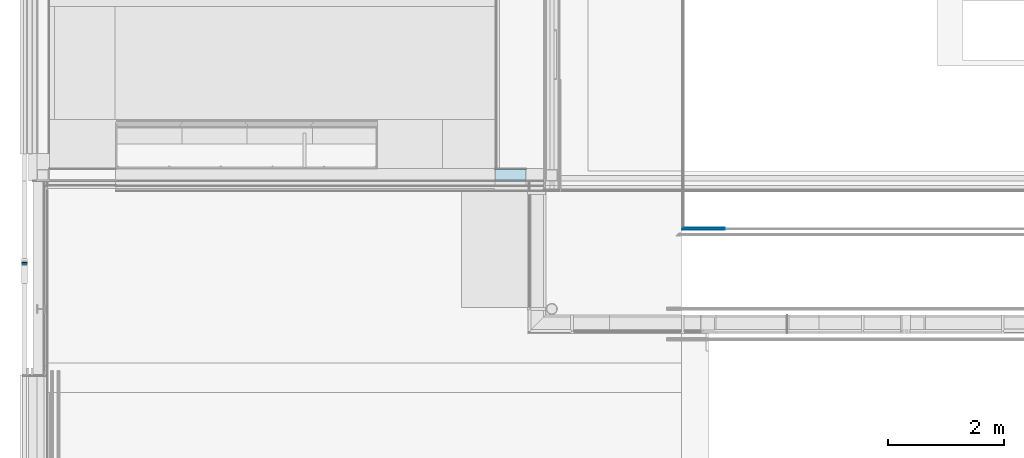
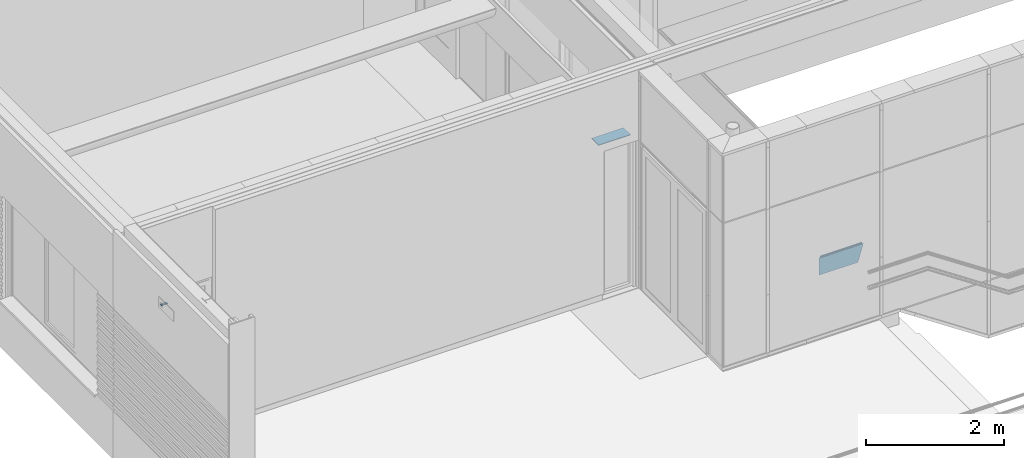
# One storey, part 97 of 137: 5 building element parts, 3 elements without a shape of their own.
"""IFC2X3 building model written with IfcOpenShell, lengths in millimetres."""

import ifcopenshell
import ifcopenshell.guid

model = None  # the IFC model being written
_history = None  # IfcOwnerHistory: only IFC2X3 demands one
_inside = {}  # id of a spatial element -> (the spatial element, [elements in it])
_under = {}  # id of a project, library or spatial element -> (it, [spatial elements below it])
_declared = {}  # id of a project -> (the project, [libraries it declares])
_typed = {}  # id of a type object -> (the type object, [elements of that type])
_made_of = {}  # id of a material, layer set ... -> (it, [elements and type objects made of it])


def new_model(schema):
    """Start an empty IFC model of exactly this schema.

    Asked for "IFC4X3", IfcOpenShell would pick the latest addendum, in which some entities
    have other attributes; the version numbers below select the first issue.
    IFC2X3 requires an IfcOwnerHistory on every rooted entity: one is made here for all.
    """
    global model, _history
    if schema == "IFC4X3":
        model = ifcopenshell.file(schema_version=(4, 3, 0, 0))
    else:
        model = ifcopenshell.file(schema=schema)
    _inside.clear()
    _under.clear()
    _declared.clear()
    _typed.clear()
    _made_of.clear()
    _history = None
    if model.schema == "IFC2X3":
        org = make("IfcOrganization", Name="unknown")
        user = make(
            "IfcPersonAndOrganization",
            ThePerson=make("IfcPerson", FamilyName="unknown"),
            TheOrganization=org,
        )
        app = make(
            "IfcApplication",
            ApplicationDeveloper=org,
            Version="unknown",
            ApplicationFullName="unknown",
            ApplicationIdentifier="unknown",
        )
        _history = make(
            "IfcOwnerHistory",
            OwningUser=user,
            OwningApplication=app,
            ChangeAction="ADDED",
            CreationDate=0,
        )
    return model


def make(cls, **values):
    """One entity of the class cls with the attributes given. An attribute that is None is left unset."""
    return model.create_entity(
        cls, **{name: value for name, value in values.items() if value is not None}
    )


def entity(cls, *values):
    """Any entity or typed value of the class cls, its attributes in the order of the schema. None: left unset."""
    e = model.create_entity(cls)
    for i, value in enumerate(values):
        if value is not None:
            e[i] = value
    return e


def rooted(cls, **values):
    """An entity with a GlobalId (a new one), such as an element, a storey or a relation."""
    return make(cls, GlobalId=ifcopenshell.guid.new(), OwnerHistory=_history, **values)


def si_unit(unit_type, name, prefix=None):
    """IfcSIUnit, for example si_unit("LENGTHUNIT", "METRE", prefix="MILLI")."""
    return make("IfcSIUnit", UnitType=unit_type, Prefix=prefix, Name=name)


def converted_unit(unit_type, name, factor, base, dimensions=None, offset=None):
    """IfcConversionBasedUnit, such as the inch: factor (a typed value) times the base unit."""
    return make(
        "IfcConversionBasedUnit"
        if offset is None
        else "IfcConversionBasedUnitWithOffset",
        ConversionOffset=offset,
        Dimensions=None
        if dimensions is None
        else entity("IfcDimensionalExponents", *dimensions),
        UnitType=unit_type,
        Name=name,
        ConversionFactor=make(
            "IfcMeasureWithUnit", ValueComponent=factor, UnitComponent=base
        ),
    )


def derived_unit(unit_type, elements):
    """IfcDerivedUnit: a product of units, each with its exponent."""
    return make(
        "IfcDerivedUnit",
        Elements=[
            make("IfcDerivedUnitElement", Unit=unit, Exponent=power)
            for unit, power in elements
        ],
        UnitType=unit_type,
    )


def money_unit(currency):
    """IfcMonetaryUnit."""
    return make("IfcMonetaryUnit", Currency=currency)


def assignment(units):
    """IfcUnitAssignment: the units of a project."""
    return None if units is None else make("IfcUnitAssignment", Units=units)


def point(xyz):
    """IfcCartesianPoint."""
    return None if xyz is None else make("IfcCartesianPoint", Coordinates=xyz)


def direction(xyz):
    """IfcDirection."""
    return None if xyz is None else make("IfcDirection", DirectionRatios=xyz)


def frame(location, z_axis=None, x_axis=None):
    """IfcAxis2Placement3D, a coordinate frame: its origin and axes. An axis left out is left unset."""
    return make(
        "IfcAxis2Placement3D",
        Location=point(location),
        Axis=direction(z_axis),
        RefDirection=direction(x_axis),
    )


def origin_with_axes():
    """The frame at (0, 0, 0) with the z axis (0, 0, 1) and the x axis (1, 0, 0) written out."""
    return frame((0.0, 0.0, 0.0), z_axis=(0.0, 0.0, 1.0), x_axis=(1.0, 0.0, 0.0))


def place(relative_to, where):
    """IfcLocalPlacement: puts the frame where relative to a parent placement (None: the world)."""
    return make(
        "IfcLocalPlacement", PlacementRelTo=relative_to, RelativePlacement=where
    )


def context(
    kind, dimensions, precision=None, world=None, true_north=None, identifier=None
):
    """IfcGeometricRepresentationContext, for example the 3D "Model" context."""
    return make(
        "IfcGeometricRepresentationContext",
        ContextIdentifier=identifier,
        ContextType=kind,
        CoordinateSpaceDimension=dimensions,
        Precision=precision,
        WorldCoordinateSystem=world,
        TrueNorth=true_north,
    )


def subcontext(parent, identifier, kind, view, scale=None):
    """IfcGeometricRepresentationSubContext, for example "Body" below "Model"."""
    return make(
        "IfcGeometricRepresentationSubContext",
        ContextIdentifier=identifier,
        ContextType=kind,
        ParentContext=parent,
        TargetScale=scale,
        TargetView=view,
    )


def project(units=None, contexts=None):
    """IfcProject with its units and contexts."""
    return rooted(
        "IfcProject",
        Name="project",
        RepresentationContexts=contexts,
        UnitsInContext=assignment(units),
    )


def spatial(cls, under=None, at=None, **own):
    """A site, building, storey or space (cls), placed at a placement, below another one or the project."""
    s = rooted(cls, ObjectPlacement=at, **own)
    if under is not None:
        _under.setdefault(under.id(), (under, []))[1].append(s)
    return s


def faces_of(points, faces, orient=None, outer=None):
    """IfcFace entities. A face is a list of loops; a loop is a list of indices into points, from 0.

    orient and outer hold one flag for each loop. By default every Orientation is true, the
    first loop of a face is its IfcFaceOuterBound and the others are IfcFaceBound.
    """
    made = []
    for i, loops in enumerate(faces):
        bounds = []
        for j, loop in enumerate(loops):
            is_outer = j == 0 if outer is None else outer[i][j]
            bounds.append(
                make(
                    "IfcFaceOuterBound" if is_outer else "IfcFaceBound",
                    Bound=make("IfcPolyLoop", Polygon=[points[k] for k in loop]),
                    Orientation=True if orient is None else orient[i][j],
                )
            )
        made.append(make("IfcFace", Bounds=bounds))
    return made


def faceted_brep(points, faces, orient=None, outer=None, voids=None):
    """IfcFacetedBrep: a solid bounded by flat faces; with voids (closed shells), ...WithVoids."""
    shared = [point(p) for p in points]
    hull = make("IfcClosedShell", CfsFaces=faces_of(shared, faces, orient, outer))
    if voids is None:
        return make("IfcFacetedBrep", Outer=hull)
    return make(
        "IfcFacetedBrepWithVoids",
        Outer=hull,
        Voids=[
            make(cls, CfsFaces=faces_of(shared, fs, o, b)) for cls, fs, o, b in voids
        ],
    )


def shape(context_of_items, identifier, shape_type, items):
    """IfcShapeRepresentation: the items that make up one representation, for example the "Body"."""
    return make(
        "IfcShapeRepresentation",
        ContextOfItems=context_of_items,
        RepresentationIdentifier=identifier,
        RepresentationType=shape_type,
        Items=items,
    )


def material(Name=None, Category=None):
    """IfcMaterial."""
    return make("IfcMaterial", Name=Name, Category=Category)


def made_of(thing, what):
    """Note that an element or type object is made of a material, layer set ...; save() writes the relation."""
    if what is not None:
        _made_of.setdefault(what.id(), (what, []))[1].append(thing)
    return thing


def type_object(cls, material=None, **own):
    """A type object (cls), such as IfcWallType, which elements share."""
    return made_of(rooted(cls, **own), material)


def element(
    cls,
    number,
    at=None,
    inside=None,
    cuts=None,
    type_object=None,
    material=None,
    context=None,
    identifier="Body",
    shape_type=None,
    held_by="IfcProductDefinitionShape",
    body=None,
    shapes=None,
    **own,
):
    """One element of the class cls, such as IfcWall. Its Tag is "e" and its number.

    at: its placement. inside: the storey or other place that contains it. cuts: it is an
    opening in that element (IfcRelVoidsElement). A single representation is given by context,
    identifier, shape_type and body (its items); several are given by shapes. held_by: the class
    of the entity that holds the representations. save() writes the other relations.
    """
    e = rooted(cls, Tag="e%d" % number, ObjectPlacement=at, **own)
    if body is not None:
        shapes = [shape(context, identifier, shape_type, body)]
    if shapes is not None:
        e.Representation = make(held_by, Representations=shapes)
    if inside is not None:
        _inside.setdefault(inside.id(), (inside, []))[1].append(e)
    if cuts is not None:
        rooted(
            "IfcRelVoidsElement", RelatingBuildingElement=cuts, RelatedOpeningElement=e
        )
    if type_object is not None:
        _typed.setdefault(type_object.id(), (type_object, []))[1].append(e)
    return made_of(e, material)


def aggregate(whole, parts):
    """IfcRelAggregates: a whole, such as a stair, and the parts it consists of."""
    return rooted("IfcRelAggregates", RelatingObject=whole, RelatedObjects=parts)


def save(model, path):
    """Write the relations noted so far, then the file.

    IfcRelAggregates (storeys below a building ...), IfcRelContainedInSpatialStructure (elements
    in a storey), IfcRelDefinesByType, IfcRelAssociatesMaterial and IfcRelDeclares: one each for
    every whole, place, type object, material and project.
    """
    for whole, parts in _under.values():
        aggregate(whole, parts)
    for where, things in _inside.values():
        rooted(
            "IfcRelContainedInSpatialStructure",
            RelatedElements=things,
            RelatingStructure=where,
        )
    for kind, things in _typed.values():
        rooted("IfcRelDefinesByType", RelatedObjects=things, RelatingType=kind)
    for what, things in _made_of.values():
        rooted("IfcRelAssociatesMaterial", RelatedObjects=things, RelatingMaterial=what)
    for by, libraries in _declared.values():
        rooted("IfcRelDeclares", RelatingContext=by, RelatedDefinitions=libraries)
    model.write(path)


model = new_model("IFC2X3")

# Units and contexts
model_context = context("Model", 3, precision=0.01, world=origin_with_axes(), true_north=direction((0.0, 1.0)))
body_context = subcontext(model_context, "Body", "Model", "MODEL_VIEW")
ifc_project = project(units=[si_unit("LENGTHUNIT", "METRE", prefix="MILLI"), si_unit("AREAUNIT", "SQUARE_METRE"), si_unit("VOLUMEUNIT", "CUBIC_METRE"), converted_unit("PLANEANGLEUNIT", "DEGREE", entity("IfcPlaneAngleMeasure", 0.0174532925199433), si_unit("PLANEANGLEUNIT", "RADIAN"), dimensions=[0, 0, 0, 0, 0, 0, 0]), money_unit("EUR"), converted_unit("TIMEUNIT", "Year", entity("IfcTimeMeasure", 31556926.0), si_unit("TIMEUNIT", "SECOND"), dimensions=[0, 0, 1, 0, 0, 0, 0]), si_unit("MASSUNIT", "GRAM", prefix="KILO"), si_unit("THERMODYNAMICTEMPERATUREUNIT", "DEGREE_CELSIUS"), si_unit("LUMINOUSINTENSITYUNIT", "LUMEN"), si_unit("ENERGYUNIT", "JOULE", prefix="MEGA"), derived_unit("THERMALCONDUCTANCEUNIT", [(si_unit("POWERUNIT", "WATT"), 1), (si_unit("LENGTHUNIT", "METRE"), -1), (si_unit("THERMODYNAMICTEMPERATUREUNIT", "KELVIN"), -1)]), derived_unit("SPECIFICHEATCAPACITYUNIT", [(si_unit("ENERGYUNIT", "JOULE"), 1), (si_unit("MASSUNIT", "GRAM", prefix="KILO"), -1), (si_unit("THERMODYNAMICTEMPERATUREUNIT", "KELVIN"), -1)]), derived_unit("MASSDENSITYUNIT", [(si_unit("MASSUNIT", "GRAM", prefix="KILO"), 1), (si_unit("VOLUMEUNIT", "CUBIC_METRE"), -1)])], contexts=[model_context])

# Site, building, storey
site_placement = place(None, origin_with_axes())
site = spatial("IfcSite", under=ifc_project, at=site_placement, Name="Site", CompositionType="ELEMENT")
building_placement = place(site_placement, origin_with_axes())
building = spatial("IfcBuilding", under=site, at=building_placement, Name="Naam gebouw", CompositionType="ELEMENT")
storey_placement = place(building_placement, frame((0.0, 0.0, 3960.0), z_axis=(0.0, 0.0, 1.0), x_axis=(1.0, 0.0, 0.0)))
storey = spatial("IfcBuildingStorey", under=building, at=storey_placement, Name="1e verdieping", CompositionType="ELEMENT", Elevation=3960.0)

# Beam, building element part
beam_type_1 = type_object("IfcBeamType", Name="41 Nestkast zwaluw 430 x 175", PredefinedType="BEAM")
beam_1_placement = place(storey_placement, frame((-159.9999999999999, 5015.999979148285, 3410.000000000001), z_axis=(0.0, 0.0, 1.0), x_axis=(0.0, 1.0, 0.0)))
beam_1 = element("IfcBeam", 1, at=beam_1_placement, inside=storey, type_object=beam_type_1, Name="_Regenwaterafvoer-x", ObjectType="BEAM")
ifc_material_1 = material(Name="Beton gewapend C vloer")
building_element_part_1_placement = place(beam_1_placement, origin_with_axes())
building_element_part_1 = element("IfcBuildingElementPart", 2, at=building_element_part_1_placement, material=ifc_material_1, Name="Beton gewapend C vloer", context=body_context, shape_type="Brep", body=[
    faceted_brep([(334.9999999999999, 100.0000000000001, 89.99999999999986), (331.4644660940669, 100.0000000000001, 88.53553390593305), (331.4644660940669, 0.0, 88.53553390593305), (334.9999999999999, 0.0, 89.99999999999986), (365.0000000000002, 100.0000000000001, 89.99999999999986), (368.5355339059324, 100.0000000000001, 88.53553390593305), (370.0000000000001, 100.0000000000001, 84.99999999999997), (370.0000000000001, 100.0000000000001, 75.00000000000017), (368.5355339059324, 100.0000000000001, 71.46446609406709), (365.0000000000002, 100.0000000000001, 70.00000000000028), (334.9999999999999, 100.0000000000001, 70.00000000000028), (331.4644660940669, 100.0000000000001, 71.46446609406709), (330.0000000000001, 100.0000000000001, 75.00000000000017), (330.0000000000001, 100.0000000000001, 84.99999999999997), (330.0000000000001, 0.0, 84.99999999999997), (330.0000000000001, 0.0, 75.00000000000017), (331.4644660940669, 0.0, 71.46446609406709), (334.9999999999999, 0.0, 70.00000000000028), (365.0000000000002, 0.0, 70.00000000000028), (368.5355339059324, 0.0, 71.46446609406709), (370.0000000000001, 0.0, 75.00000000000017), (370.0000000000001, 0.0, 84.99999999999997), (368.5355339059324, 0.0, 88.53553390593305), (365.0000000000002, 0.0, 89.99999999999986)], [[[0, 1, 2, 3]], [[0, 4, 5, 6, 7, 8, 9, 10, 11, 12, 13, 1]], [[1, 13, 14, 2]], [[3, 2, 14, 15, 16, 17, 18, 19, 20, 21, 22, 23]], [[4, 0, 3, 23]], [[5, 4, 23, 22]], [[6, 5, 22, 21]], [[7, 6, 21, 20]], [[8, 7, 20, 19]], [[9, 8, 19, 18]], [[10, 9, 18, 17]], [[11, 10, 17, 16]], [[12, 11, 16, 15]], [[13, 12, 15, 14]]]),
])
aggregate(beam_1, [building_element_part_1])

# Beam, building element parts
beam_type_2 = type_object("IfcBeamType", Name="34 Glas balustrade binnen 50 x 1800", PredefinedType="BEAM")
beam_2_placement = place(storey_placement, frame((11820.0000367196, 5930.000025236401, 0.0), z_axis=(0.0, 0.0, 1.0), x_axis=(0.0, 1.0, 0.0)))
beam_2 = element("IfcBeam", 3, at=beam_2_placement, inside=storey, type_object=beam_type_2, Name="_Regenwaterafvoer-x", ObjectType="BEAM")
ifc_material_2 = material(Name="Glas")
building_element_part_2_placement = place(beam_2_placement, origin_with_axes())
building_element_part_2 = element("IfcBuildingElementPart", 4, at=building_element_part_2_placement, material=ifc_material_2, Name="Glas", context=body_context, shape_type="Brep", body=[
    faceted_brep([(14.99999940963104, 1.524877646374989e-05, 0.0), (14.99999940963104, 729.9544488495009, 0.0), (14.99999940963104, 729.9544488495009, -80.22999964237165), (14.99999940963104, 24.29170486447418, -80.22999964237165), (19.99999940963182, 1.531500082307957e-05, 0.0), (19.99999940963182, 724.9544488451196, 0.0), (19.99999940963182, 724.9544488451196, -80.22999964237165), (19.99999940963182, 24.29170493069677, -80.22999964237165)], [[[0, 1, 2, 3]], [[4, 5, 1, 0]], [[2, 1, 5, 6]], [[3, 2, 6, 7]], [[4, 0, 3, 7]], [[7, 6, 5, 4]]]),
])
building_element_part_3_placement = place(beam_2_placement, origin_with_axes())
building_element_part_3 = element("IfcBuildingElementPart", 5, at=building_element_part_3_placement, material=ifc_material_2, Name="Glas", context=body_context, shape_type="Brep", body=[
    faceted_brep([(39.99999940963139, 1.557989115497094e-05, 0.0), (39.99999940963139, 704.9544488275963, 0.0), (39.99999940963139, 704.9544488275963, -80.22999964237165), (39.99999940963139, 24.29170519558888, -80.22999964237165), (44.99800116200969, 1.564608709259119e-05, 0.0), (44.99800116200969, 699.9564470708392, 0.0), (44.99800116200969, 699.9564470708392, -80.22999964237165), (44.99800116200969, 24.29170526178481, -80.22999964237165)], [[[0, 1, 2, 3]], [[4, 5, 1, 0]], [[2, 1, 5, 6]], [[3, 2, 6, 7]], [[4, 0, 3, 7]], [[7, 6, 5, 4]]]),
])
ifc_material_3 = material(Name="Metaal - Staal C")
building_element_part_4_placement = place(beam_2_placement, origin_with_axes())
building_element_part_4 = element("IfcBuildingElementPart", 6, at=building_element_part_4_placement, material=ifc_material_3, Name="Metaal - Staal C", context=body_context, shape_type="Brep", body=[
    faceted_brep([(54.99800116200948, 1.577853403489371e-05, 0.0), (54.99800116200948, 689.9564470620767, 0.0), (44.99800116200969, 699.9564470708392, 0.0), (44.99800116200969, 1.564608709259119e-05, 0.0), (54.99800116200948, 45.4163620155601, -149.9999999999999), (54.99800116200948, 689.9564470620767, -149.9999999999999), (44.99800116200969, 699.9564470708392, -149.9999999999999), (44.99800116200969, 699.9564470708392, -124.9999993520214), (14.99999999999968, 729.9544482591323, -124.9999993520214), (14.99999999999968, 729.9544482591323, -299.9999999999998), (4.999999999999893, 739.954448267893, -299.9999999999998), (4.999999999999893, 739.954448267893, 0.0), (14.99999999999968, 729.9544482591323, 0.0), (14.99999940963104, 729.9544488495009, -80.22999964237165), (14.99999999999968, 729.9544482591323, -84.9999993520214), (44.99800116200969, 699.9564470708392, -84.9999993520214), (44.99800116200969, 699.9564470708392, -80.22999964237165), (14.99999999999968, 729.9544482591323, -114.9999993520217), (44.99800116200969, 699.9564470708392, -114.9999993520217), (44.99800116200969, 699.9564470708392, -94.99999935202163), (14.99999999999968, 729.9544482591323, -94.99999935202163), (44.99800116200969, 24.29170526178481, -80.22999964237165), (44.99800116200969, 25.73594498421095, -84.9999993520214), (14.99999999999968, 25.73594458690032, -84.9999993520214), (14.99999940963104, 24.29170486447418, -80.22999964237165), (14.99999999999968, 1.524877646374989e-05, 0.0), (4.999999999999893, 1.511633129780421e-05, 0.0), (4.999999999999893, 90.8327075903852, -299.9999999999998), (14.99999999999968, 90.83270772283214, -299.9999999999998), (14.99999999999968, 37.84697025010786, -124.9999993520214), (44.99800116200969, 37.84697064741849, -124.9999993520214), (44.99800116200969, 45.41636188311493, -149.9999999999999), (44.99800116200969, 28.76370140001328, -94.99999935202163), (44.99800116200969, 34.81921423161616, -114.9999993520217), (14.99999999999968, 34.81921383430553, -114.9999993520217), (14.99999999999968, 28.76370100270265, -94.99999935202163)], [[[0, 1, 2, 3]], [[4, 5, 1, 0]], [[2, 1, 5, 6, 7, 8, 9, 10, 11, 12, 13, 14, 15, 16], [17, 18, 19, 20]], [[3, 2, 16, 21]], [[4, 0, 3, 21, 22, 23, 24, 25, 26, 27, 28, 29, 30, 31], [32, 33, 34, 35]], [[31, 6, 5, 4]], [[30, 7, 6, 31]], [[29, 8, 7, 30]], [[28, 9, 8, 29]], [[27, 10, 9, 28]], [[26, 11, 10, 27]], [[25, 12, 11, 26]], [[24, 13, 12, 25]], [[23, 14, 13, 24]], [[22, 15, 14, 23]], [[21, 16, 15, 22]], [[33, 18, 17, 34]], [[32, 19, 18, 33]], [[35, 20, 19, 32]], [[34, 17, 20, 35]]]),
])
aggregate(beam_2, [building_element_part_2, building_element_part_3, building_element_part_4])

# Beam, building element part
beam_type_3 = type_object("IfcBeamType", Name="31 HSB boven kozijnen 214 x 1000", PredefinedType="BEAM")
beam_3_placement = place(storey_placement, frame((8410.0, 6993.999661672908, 2600.000000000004), z_axis=(0.0, 0.0, 1.0), x_axis=(4.022914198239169e-08, 0.9999999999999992, 0.0)))
beam_3 = element("IfcBeam", 7, at=beam_3_placement, inside=storey, type_object=beam_type_3, Name="28_Balk-x", ObjectType="BEAM")
ifc_material_4 = material(Name="Gipsplaat")
building_element_part_5_placement = place(beam_3_placement, origin_with_axes())
building_element_part_5 = element("IfcBuildingElementPart", 8, at=building_element_part_5_placement, material=ifc_material_4, Name="Gipsplaat", context=body_context, shape_type="Brep", body=[
    faceted_brep([(-214.0000025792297, 532.4999958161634, 12.00000596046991), (-214.0000025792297, 532.4999958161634, 0.0), (-214.0000025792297, 0.0, 0.0), (-214.0000025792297, 0.0, 12.00000596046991), (-11.99999661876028, 532.4999958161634, 12.00000596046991), (-11.99999661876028, 532.4999958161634, 0.0), (-11.99999661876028, 0.0, 0.0), (-11.99999661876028, 0.0, 12.00000596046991)], [[[0, 1, 2, 3]], [[0, 4, 5, 1]], [[1, 5, 6, 2]], [[3, 2, 6, 7]], [[4, 0, 3, 7]], [[5, 4, 7, 6]]]),
])
aggregate(beam_3, [building_element_part_5])

save(model, "model.ifc")
